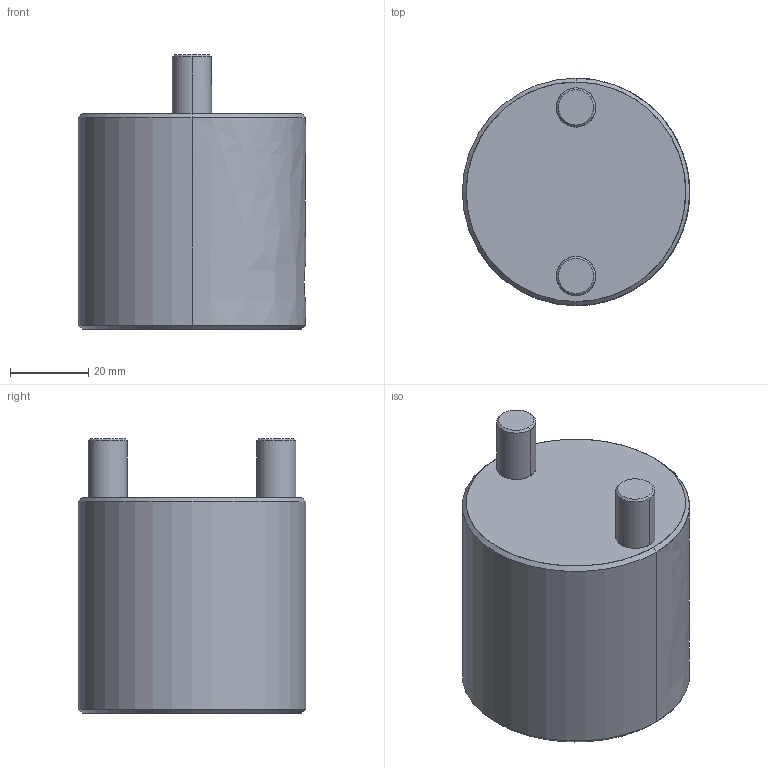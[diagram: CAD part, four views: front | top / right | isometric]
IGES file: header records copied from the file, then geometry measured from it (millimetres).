
Start section: START RECORD GO HERE.
Global section: file name: CS1230.igs; native system: DASSAULT SYSTEMES CATIA V5 R20 - www.3ds.com; preprocessor: CATIA Version 5 Release 20 ; author: r.borello; organization: CFTORINO; date: 20190624.105256; units: millimetre
Bounding box: 58 x 58 x 70 mm (x, y, z)
Surface area: 20610.7 mm2 (no closed solid volume)
Topology: 0 solids, 0 shells, 23 faces, 94 edges, 94 vertices
Faces by surface type: revolution 18, plane 5
